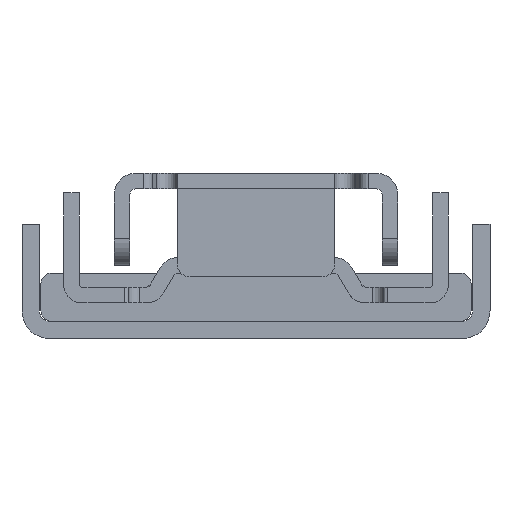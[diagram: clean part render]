
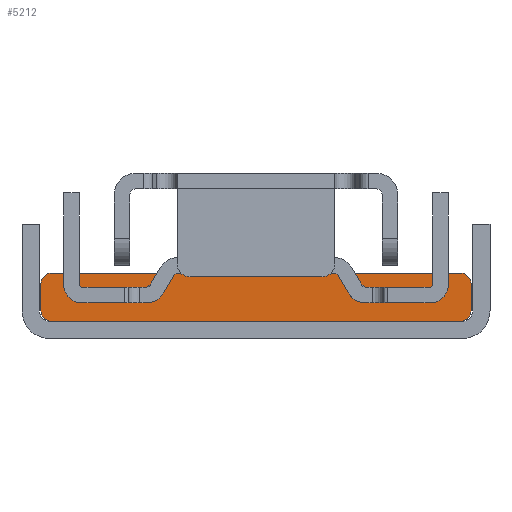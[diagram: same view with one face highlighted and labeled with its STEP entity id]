
A CAD part, front view. The second image highlights one B-rep face of the part: STEP entity #5212.
In plain terms, the highlighted planar face has unit normal (0, -1, 0) as drawn and (-1, 0, 0) by its records, which use the part's own axes.
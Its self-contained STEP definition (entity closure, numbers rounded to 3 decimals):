
#5036=DIRECTION('',(0.,0.,1.));
#5037=VECTOR('',#5036,46.6);
#5038=CARTESIAN_POINT('',(-100.5,0.,-23.3));
#5039=LINE('',#5038,#5037);
#5040=CARTESIAN_POINT('',(-100.5,1.2,23.3));
#5041=DIRECTION('',(-1.,0.,0.));
#5042=DIRECTION('',(0.,-1.,0.));
#5043=AXIS2_PLACEMENT_3D('',#5040,#5041,#5042);
#5045=CARTESIAN_POINT('',(-100.5,1.2,-23.3));
#5046=DIRECTION('',(-1.,0.,0.));
#5047=DIRECTION('',(0.,0.,-1.));
#5048=AXIS2_PLACEMENT_3D('',#5045,#5046,#5047);
#5050=DIRECTION('',(0.,1.,0.));
#5051=VECTOR('',#5050,3.1);
#5052=CARTESIAN_POINT('',(-100.5,1.2,-24.5));
#5053=LINE('',#5052,#5051);
#5054=CARTESIAN_POINT('',(-100.5,4.3,-23.3));
#5055=DIRECTION('',(-1.,0.,0.));
#5056=DIRECTION('',(0.,1.,0.));
#5057=AXIS2_PLACEMENT_3D('',#5054,#5055,#5056);
#5059=CARTESIAN_POINT('',(-100.5,4.3,23.3));
#5060=DIRECTION('',(-1.,0.,0.));
#5061=DIRECTION('',(0.,0.,1.));
#5062=AXIS2_PLACEMENT_3D('',#5059,#5060,#5061);
#5092=DIRECTION('',(0.,1.,0.));
#5093=VECTOR('',#5092,3.1);
#5094=CARTESIAN_POINT('',(-100.5,1.2,24.5));
#5095=LINE('',#5094,#5093);
#5104=DIRECTION('',(0.,0.,1.));
#5105=VECTOR('',#5104,46.6);
#5106=CARTESIAN_POINT('',(-100.5,5.5,-23.3));
#5107=LINE('',#5106,#5105);
#5128=CARTESIAN_POINT('',(-100.5,0.,23.3));
#5129=CARTESIAN_POINT('',(-100.5,1.2,24.5));
#5130=VERTEX_POINT('',#5128);
#5131=VERTEX_POINT('',#5129);
#5140=CARTESIAN_POINT('',(-100.5,4.3,24.5));
#5141=VERTEX_POINT('',#5140);
#5142=CARTESIAN_POINT('',(-100.5,5.5,23.3));
#5143=VERTEX_POINT('',#5142);
#5144=CARTESIAN_POINT('',(-100.5,5.5,-23.3));
#5145=CARTESIAN_POINT('',(-100.5,4.3,-24.5));
#5146=VERTEX_POINT('',#5144);
#5147=VERTEX_POINT('',#5145);
#5156=CARTESIAN_POINT('',(-100.5,1.2,-24.5));
#5157=VERTEX_POINT('',#5156);
#5158=CARTESIAN_POINT('',(-100.5,0.,-23.3));
#5159=VERTEX_POINT('',#5158);
#5191=CARTESIAN_POINT('',(-100.5,0.,-24.5));
#5192=DIRECTION('',(-1.,0.,0.));
#5193=DIRECTION('',(0.,0.,1.));
#5194=AXIS2_PLACEMENT_3D('',#5191,#5192,#5193);
#5195=PLANE('',#5194);
#5196=ORIENTED_EDGE('',*,*,#5181,.F.);
#5197=ORIENTED_EDGE('',*,*,#5171,.F.);
#5199=ORIENTED_EDGE('',*,*,#5198,.F.);
#5201=ORIENTED_EDGE('',*,*,#5200,.T.);
#5203=ORIENTED_EDGE('',*,*,#5202,.F.);
#5205=ORIENTED_EDGE('',*,*,#5204,.T.);
#5207=ORIENTED_EDGE('',*,*,#5206,.F.);
#5209=ORIENTED_EDGE('',*,*,#5208,.F.);
#5210=EDGE_LOOP('',(#5196,#5197,#5199,#5201,#5203,#5205,#5207,#5209));
#5211=FACE_OUTER_BOUND('',#5210,.F.);
#5212=ADVANCED_FACE('',(#5211),#5195,.T.);
#5044=CIRCLE('',#5043,1.2);
#5049=CIRCLE('',#5048,1.2);
#5058=CIRCLE('',#5057,1.2);
#5063=CIRCLE('',#5062,1.2);
#5171=EDGE_CURVE('',#5159,#5130,#5039,.T.);
#5181=EDGE_CURVE('',#5130,#5131,#5044,.T.);
#5198=EDGE_CURVE('',#5157,#5159,#5049,.T.);
#5200=EDGE_CURVE('',#5157,#5147,#5053,.T.);
#5202=EDGE_CURVE('',#5146,#5147,#5058,.T.);
#5204=EDGE_CURVE('',#5146,#5143,#5107,.T.);
#5206=EDGE_CURVE('',#5141,#5143,#5063,.T.);
#5208=EDGE_CURVE('',#5131,#5141,#5095,.T.);
